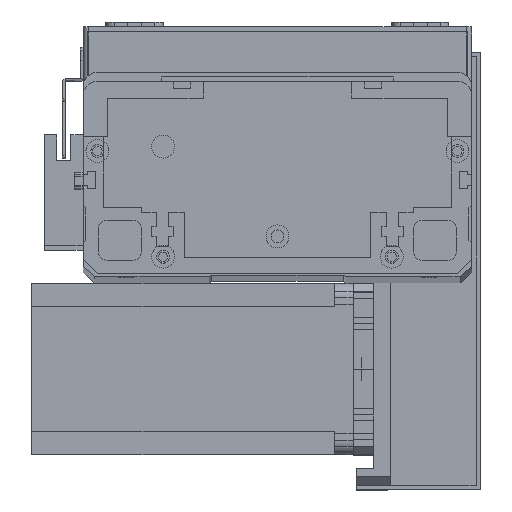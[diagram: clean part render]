
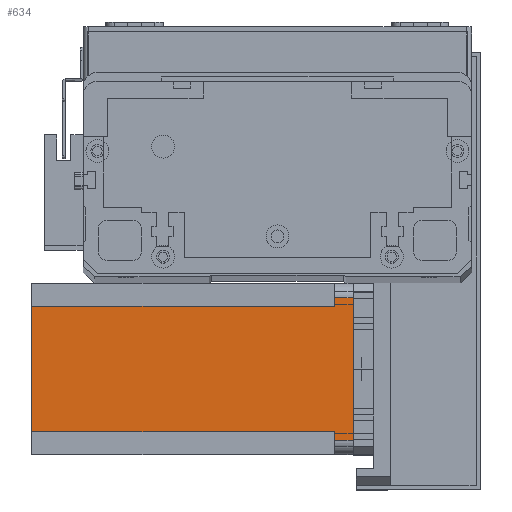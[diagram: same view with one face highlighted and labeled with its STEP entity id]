
A CAD part, top view. The second image highlights one B-rep face of the part: STEP entity #634.
In plain terms, the highlighted planar face has unit normal (0, 0, 1) as drawn and (0, -1, 0) by its records, which use the part's own axes.
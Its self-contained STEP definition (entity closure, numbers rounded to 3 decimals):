
#537 = LINE ( 'NONE', #15456, #11203 ) ;
#634 = ADVANCED_FACE ( 'NONE', ( #28394 ), #28072, .T. ) ;
#859 = CARTESIAN_POINT ( 'NONE',  ( 8., 0., -6.5 ) ) ;
#912 = EDGE_CURVE ( 'NONE', #27278, #23373, #9897, .T. ) ;
#1147 = EDGE_CURVE ( 'NONE', #22826, #21775, #21647, .T. ) ;
#1206 = EDGE_LOOP ( 'NONE', ( #21481, #12591, #2897, #26988, #13116, #19964, #11148, #8149 ) ) ;
#1383 = CARTESIAN_POINT ( 'NONE',  ( 8., 0., -112.5 ) ) ;
#1831 = VERTEX_POINT ( 'NONE', #20343 ) ;
#2897 = ORIENTED_EDGE ( 'NONE', *, *, #11864, .F. ) ;
#3257 = VECTOR ( 'NONE', #23772, 1000. ) ;
#3732 = CARTESIAN_POINT ( 'NONE',  ( 52., 0., -112.5 ) ) ;
#3844 = VECTOR ( 'NONE', #16287, 1000. ) ;
#4657 = AXIS2_PLACEMENT_3D ( 'NONE', #10391, #9609, #7323 ) ;
#4915 = EDGE_CURVE ( 'NONE', #26439, #1831, #12151, .T. ) ;
#6660 = EDGE_CURVE ( 'NONE', #27278, #21775, #8600, .T. ) ;
#7054 = CARTESIAN_POINT ( 'NONE',  ( 5., 0., -112.5 ) ) ;
#7107 = CARTESIAN_POINT ( 'NONE',  ( 55., 0., -112.5 ) ) ;
#7199 = VECTOR ( 'NONE', #27523, 1000. ) ;
#7323 = DIRECTION ( 'NONE',  ( 0., 0., -1. ) ) ;
#8016 = DIRECTION ( 'NONE',  ( 0., 0., -1. ) ) ;
#8149 = ORIENTED_EDGE ( 'NONE', *, *, #1147, .F. ) ;
#8600 = LINE ( 'NONE', #21488, #3257 ) ;
#9609 = DIRECTION ( 'NONE',  ( 0., -1., 0. ) ) ;
#9668 = VECTOR ( 'NONE', #26027, 1000. ) ;
#9897 = LINE ( 'NONE', #15702, #3844 ) ;
#10391 = CARTESIAN_POINT ( 'NONE',  ( 0., 0., -112.5 ) ) ;
#11148 = ORIENTED_EDGE ( 'NONE', *, *, #6660, .T. ) ;
#11203 = VECTOR ( 'NONE', #24609, 1000. ) ;
#11864 = EDGE_CURVE ( 'NONE', #13303, #1831, #537, .T. ) ;
#12151 = LINE ( 'NONE', #7107, #24282 ) ;
#12591 = ORIENTED_EDGE ( 'NONE', *, *, #4915, .T. ) ;
#13116 = ORIENTED_EDGE ( 'NONE', *, *, #27722, .F. ) ;
#13303 = VERTEX_POINT ( 'NONE', #21550 ) ;
#14480 = DIRECTION ( 'NONE',  ( -1., 0., 0. ) ) ;
#14726 = CARTESIAN_POINT ( 'NONE',  ( 52., 0., -6.5 ) ) ;
#15456 = CARTESIAN_POINT ( 'NONE',  ( 0., 0., 0. ) ) ;
#15702 = CARTESIAN_POINT ( 'NONE',  ( 8., 0., -112.5 ) ) ;
#15723 = VECTOR ( 'NONE', #14480, 1000. ) ;
#15912 = EDGE_CURVE ( 'NONE', #13303, #25163, #19315, .T. ) ;
#16287 = DIRECTION ( 'NONE',  ( 0., 0., 1. ) ) ;
#17758 = CARTESIAN_POINT ( 'NONE',  ( 5., 0., -6.5 ) ) ;
#17949 = CARTESIAN_POINT ( 'NONE',  ( 8., 0., -6.5 ) ) ;
#18176 = CARTESIAN_POINT ( 'NONE',  ( 52., 0., -6.5 ) ) ;
#19315 = LINE ( 'NONE', #7054, #7199 ) ;
#19964 = ORIENTED_EDGE ( 'NONE', *, *, #912, .F. ) ;
#20343 = CARTESIAN_POINT ( 'NONE',  ( 55., 0., 0. ) ) ;
#20748 = DIRECTION ( 'NONE',  ( 0., 0., 1. ) ) ;
#20908 = CARTESIAN_POINT ( 'NONE',  ( 52., 0., -112.5 ) ) ;
#21481 = ORIENTED_EDGE ( 'NONE', *, *, #27190, .T. ) ;
#21488 = CARTESIAN_POINT ( 'NONE',  ( 0., 0., -112.5 ) ) ;
#21550 = CARTESIAN_POINT ( 'NONE',  ( 5., 0., 0. ) ) ;
#21647 = LINE ( 'NONE', #3732, #27664 ) ;
#21775 = VERTEX_POINT ( 'NONE', #20908 ) ;
#22826 = VERTEX_POINT ( 'NONE', #18176 ) ;
#23316 = CARTESIAN_POINT ( 'NONE',  ( 55., 0., -6.5 ) ) ;
#23373 = VERTEX_POINT ( 'NONE', #17949 ) ;
#23772 = DIRECTION ( 'NONE',  ( 1., 0., 0. ) ) ;
#24282 = VECTOR ( 'NONE', #20748, 1000. ) ;
#24609 = DIRECTION ( 'NONE',  ( 1., 0., 0. ) ) ;
#25163 = VERTEX_POINT ( 'NONE', #17758 ) ;
#26027 = DIRECTION ( 'NONE',  ( 1., 0., 0. ) ) ;
#26359 = LINE ( 'NONE', #859, #15723 ) ;
#26439 = VERTEX_POINT ( 'NONE', #23316 ) ;
#26988 = ORIENTED_EDGE ( 'NONE', *, *, #15912, .T. ) ;
#27190 = EDGE_CURVE ( 'NONE', #22826, #26439, #27810, .T. ) ;
#27278 = VERTEX_POINT ( 'NONE', #1383 ) ;
#27523 = DIRECTION ( 'NONE',  ( 0., 0., -1. ) ) ;
#27664 = VECTOR ( 'NONE', #8016, 1000. ) ;
#27722 = EDGE_CURVE ( 'NONE', #23373, #25163, #26359, .T. ) ;
#27810 = LINE ( 'NONE', #14726, #9668 ) ;
#28072 = PLANE ( 'NONE',  #4657 ) ;
#28394 = FACE_OUTER_BOUND ( 'NONE', #1206, .T. ) ;
